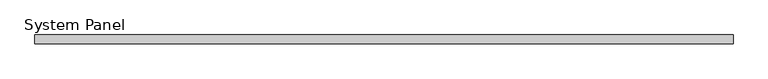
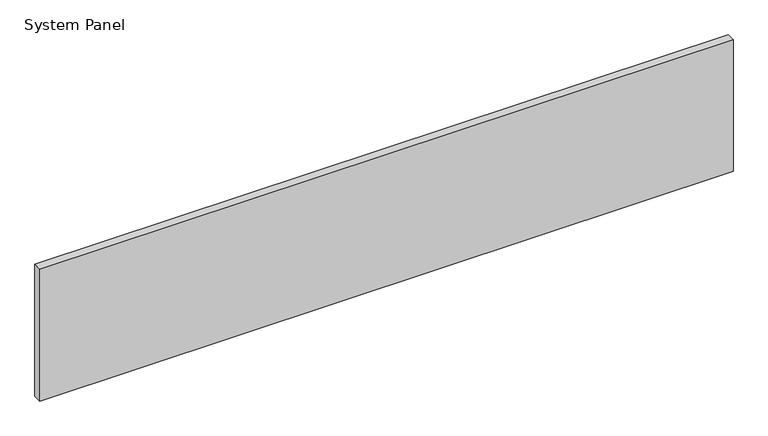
"""IFC4 building model written with IfcOpenShell, lengths in millimetres: plate geometry, System Panel : Equitilt 75mm Horizontal - Plain RHEA - EPS-FR."""

import ifcopenshell
import ifcopenshell.guid

model = None  # the IFC model being written
_history = None  # IfcOwnerHistory: only IFC2X3 demands one
_inside = {}  # id of a spatial element -> (the spatial element, [elements in it])
_under = {}  # id of a project, library or spatial element -> (it, [spatial elements below it])
_declared = {}  # id of a project -> (the project, [libraries it declares])
_typed = {}  # id of a type object -> (the type object, [elements of that type])
_made_of = {}  # id of a material, layer set ... -> (it, [elements and type objects made of it])


def new_model(schema):
    """Start an empty IFC model of exactly this schema.

    Asked for "IFC4X3", IfcOpenShell would pick the latest addendum, in which some entities
    have other attributes; the version numbers below select the first issue.
    IFC2X3 requires an IfcOwnerHistory on every rooted entity: one is made here for all.
    """
    global model, _history
    if schema == "IFC4X3":
        model = ifcopenshell.file(schema_version=(4, 3, 0, 0))
    else:
        model = ifcopenshell.file(schema=schema)
    _inside.clear()
    _under.clear()
    _declared.clear()
    _typed.clear()
    _made_of.clear()
    _history = None
    if model.schema == "IFC2X3":
        org = make("IfcOrganization", Name="unknown")
        user = make(
            "IfcPersonAndOrganization",
            ThePerson=make("IfcPerson", FamilyName="unknown"),
            TheOrganization=org,
        )
        app = make(
            "IfcApplication",
            ApplicationDeveloper=org,
            Version="unknown",
            ApplicationFullName="unknown",
            ApplicationIdentifier="unknown",
        )
        _history = make(
            "IfcOwnerHistory",
            OwningUser=user,
            OwningApplication=app,
            ChangeAction="ADDED",
            CreationDate=0,
        )
    return model


def make(cls, **values):
    """One entity of the class cls with the attributes given. An attribute that is None is left unset."""
    return model.create_entity(
        cls, **{name: value for name, value in values.items() if value is not None}
    )


def rooted(cls, **values):
    """An entity with a GlobalId (a new one), such as an element, a storey or a relation."""
    return make(cls, GlobalId=ifcopenshell.guid.new(), OwnerHistory=_history, **values)


def si_unit(unit_type, name, prefix=None):
    """IfcSIUnit, for example si_unit("LENGTHUNIT", "METRE", prefix="MILLI")."""
    return make("IfcSIUnit", UnitType=unit_type, Prefix=prefix, Name=name)


def assignment(units):
    """IfcUnitAssignment: the units of a project."""
    return None if units is None else make("IfcUnitAssignment", Units=units)


def point(xyz):
    """IfcCartesianPoint."""
    return None if xyz is None else make("IfcCartesianPoint", Coordinates=xyz)


def direction(xyz):
    """IfcDirection."""
    return None if xyz is None else make("IfcDirection", DirectionRatios=xyz)


def frame(location, z_axis=None, x_axis=None):
    """IfcAxis2Placement3D, a coordinate frame: its origin and axes. An axis left out is left unset."""
    return make(
        "IfcAxis2Placement3D",
        Location=point(location),
        Axis=direction(z_axis),
        RefDirection=direction(x_axis),
    )


def origin():
    """The frame at (0, 0, 0) with its axes left unset."""
    return frame((0.0, 0.0, 0.0))


def origin_with_axes():
    """The frame at (0, 0, 0) with the z axis (0, 0, 1) and the x axis (1, 0, 0) written out."""
    return frame((0.0, 0.0, 0.0), z_axis=(0.0, 0.0, 1.0), x_axis=(1.0, 0.0, 0.0))


def place(relative_to, where):
    """IfcLocalPlacement: puts the frame where relative to a parent placement (None: the world)."""
    return make(
        "IfcLocalPlacement", PlacementRelTo=relative_to, RelativePlacement=where
    )


def context(
    kind, dimensions, precision=None, world=None, true_north=None, identifier=None
):
    """IfcGeometricRepresentationContext, for example the 3D "Model" context."""
    return make(
        "IfcGeometricRepresentationContext",
        ContextIdentifier=identifier,
        ContextType=kind,
        CoordinateSpaceDimension=dimensions,
        Precision=precision,
        WorldCoordinateSystem=world,
        TrueNorth=true_north,
    )


def project(units=None, contexts=None):
    """IfcProject with its units and contexts."""
    return rooted(
        "IfcProject",
        Name="project",
        RepresentationContexts=contexts,
        UnitsInContext=assignment(units),
    )


def spatial(cls, under=None, at=None, **own):
    """A site, building, storey or space (cls), placed at a placement, below another one or the project."""
    s = rooted(cls, ObjectPlacement=at, **own)
    if under is not None:
        _under.setdefault(under.id(), (under, []))[1].append(s)
    return s


def polyline(points):
    """IfcPolyline through the points."""
    return make("IfcPolyline", Points=[point(p) for p in points])


def outline(outer, holes=None, kind="AREA"):
    """IfcArbitraryClosedProfileDef: a profile drawn as a closed curve; with holes, ...WithVoids."""
    if holes is None:
        return make("IfcArbitraryClosedProfileDef", ProfileType=kind, OuterCurve=outer)
    return make(
        "IfcArbitraryProfileDefWithVoids",
        ProfileType=kind,
        OuterCurve=outer,
        InnerCurves=holes,
    )


def extrude(swept, where, along, depth):
    """IfcExtrudedAreaSolid: the profile swept, set in the frame where, extruded along a direction by depth."""
    return make(
        "IfcExtrudedAreaSolid",
        SweptArea=swept,
        Position=where,
        ExtrudedDirection=direction(along),
        Depth=depth,
    )


def shape(context_of_items, identifier, shape_type, items):
    """IfcShapeRepresentation: the items that make up one representation, for example the "Body"."""
    return make(
        "IfcShapeRepresentation",
        ContextOfItems=context_of_items,
        RepresentationIdentifier=identifier,
        RepresentationType=shape_type,
        Items=items,
    )


def source(mapping_origin, context_of_items, identifier, shape_type, items):
    """IfcRepresentationMap: a shape defined once, which mapped items show again and again."""
    return make(
        "IfcRepresentationMap",
        MappingOrigin=mapping_origin,
        MappedRepresentation=shape(context_of_items, identifier, shape_type, items),
    )


def transform(
    local_origin,
    x_axis=None,
    y_axis=None,
    z_axis=None,
    scale=None,
    scale2=None,
    scale3=None,
    uniform=True,
):
    """IfcCartesianTransformationOperator3D, or its non-uniform kind. x_axis, y_axis, z_axis: its Axis1, 2, 3."""
    if uniform:
        return make(
            "IfcCartesianTransformationOperator3D",
            Axis1=direction(x_axis),
            Axis2=direction(y_axis),
            LocalOrigin=point(local_origin),
            Scale=scale,
            Axis3=direction(z_axis),
        )
    return make(
        "IfcCartesianTransformationOperator3DnonUniform",
        Axis1=direction(x_axis),
        Axis2=direction(y_axis),
        LocalOrigin=point(local_origin),
        Scale=scale,
        Axis3=direction(z_axis),
        Scale2=scale2,
        Scale3=scale3,
    )


def mapped(mapping_source, mapping_target):
    """IfcMappedItem: shows the shape of a source again, moved by a transform."""
    return make(
        "IfcMappedItem", MappingSource=mapping_source, MappingTarget=mapping_target
    )


def made_of(thing, what):
    """Note that an element or type object is made of a material, layer set ...; save() writes the relation."""
    if what is not None:
        _made_of.setdefault(what.id(), (what, []))[1].append(thing)
    return thing


def element(
    cls,
    number,
    at=None,
    inside=None,
    cuts=None,
    type_object=None,
    material=None,
    context=None,
    identifier="Body",
    shape_type=None,
    held_by="IfcProductDefinitionShape",
    body=None,
    shapes=None,
    **own,
):
    """One element of the class cls, such as IfcWall. Its Tag is "e" and its number.

    at: its placement. inside: the storey or other place that contains it. cuts: it is an
    opening in that element (IfcRelVoidsElement). A single representation is given by context,
    identifier, shape_type and body (its items); several are given by shapes. held_by: the class
    of the entity that holds the representations. save() writes the other relations.
    """
    e = rooted(cls, Tag="e%d" % number, ObjectPlacement=at, **own)
    if body is not None:
        shapes = [shape(context, identifier, shape_type, body)]
    if shapes is not None:
        e.Representation = make(held_by, Representations=shapes)
    if inside is not None:
        _inside.setdefault(inside.id(), (inside, []))[1].append(e)
    if cuts is not None:
        rooted(
            "IfcRelVoidsElement", RelatingBuildingElement=cuts, RelatedOpeningElement=e
        )
    if type_object is not None:
        _typed.setdefault(type_object.id(), (type_object, []))[1].append(e)
    return made_of(e, material)


def aggregate(whole, parts):
    """IfcRelAggregates: a whole, such as a stair, and the parts it consists of."""
    return rooted("IfcRelAggregates", RelatingObject=whole, RelatedObjects=parts)


def save(model, path):
    """Write the relations noted so far, then the file.

    IfcRelAggregates (storeys below a building ...), IfcRelContainedInSpatialStructure (elements
    in a storey), IfcRelDefinesByType, IfcRelAssociatesMaterial and IfcRelDeclares: one each for
    every whole, place, type object, material and project.
    """
    for whole, parts in _under.values():
        aggregate(whole, parts)
    for where, things in _inside.values():
        rooted(
            "IfcRelContainedInSpatialStructure",
            RelatedElements=things,
            RelatingStructure=where,
        )
    for kind, things in _typed.values():
        rooted("IfcRelDefinesByType", RelatedObjects=things, RelatingType=kind)
    for what, things in _made_of.values():
        rooted("IfcRelAssociatesMaterial", RelatedObjects=things, RelatingMaterial=what)
    for by, libraries in _declared.values():
        rooted("IfcRelDeclares", RelatingContext=by, RelatedDefinitions=libraries)
    model.write(path)


def system_panel_3fc5bacf(model_context):
    return source(origin(), model_context, "Body", "SweptSolid", [
        extrude(outline(polyline([(2990.0, -75.0), (-2990.0, -75.0), (-2990.0, 0.0), (2990.0, 0.0), (2990.0, -75.0)])), origin_with_axes(), (0.0, 0.0, 1.0), 1200.0),
    ])


if __name__ == "__main__":
    model = new_model("IFC4")
    model_context = context("Model", 3, world=origin())
    ifc_project = project(units=[si_unit("LENGTHUNIT", "METRE", prefix="MILLI")], contexts=[model_context])
    site = spatial("IfcSite", under=ifc_project)
    building = spatial("IfcBuilding", under=site)
    placement = place(None, origin())
    system_panel_shape = system_panel_3fc5bacf(model_context)
    element("IfcPlate", 1, ObjectType="System Panel : Equitilt 75mm Horizontal - Plain RHEA - EPS-FR", at=placement, inside=building, context=model_context, shape_type="MappedRepresentation", body=[
        mapped(system_panel_shape, transform((0.0, 0.0, 0.0), x_axis=(1.0, 0.0, 0.0), y_axis=(0.0, 1.0, 0.0), z_axis=(0.0, 0.0, 1.0))),
    ])
    save(model, "model.ifc")
